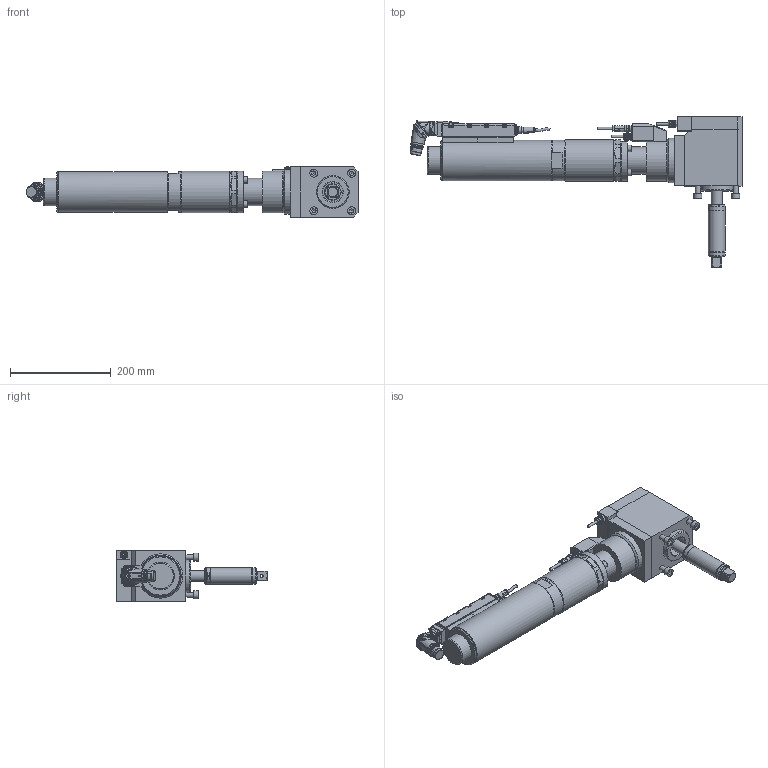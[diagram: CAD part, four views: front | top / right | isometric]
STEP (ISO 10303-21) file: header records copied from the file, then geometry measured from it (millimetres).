
FILE_DESCRIPTION (( 'STEP AP203' ), '1' );
FILE_NAME ('70082589_ESX329DRXWX300AWDX350-300.STEP', '2026-03-12T11:48:50', ( '' ), ( '' ), 'SwSTEP 2.0', 'SolidWorks 2020', '' );
FILE_SCHEMA (( 'CONFIG_CONTROL_DESIGN' ));
Length unit declared in the file: millimetre
Products named in the file (11): 70082293_2; 7002133_3; 70210514; 70082404; 70082589_ESX329DRXWX300AWDX350-300; 70057493_4; 70057493_2; 70057493_3; 70082308_ESX329_Standard_Winkel_2; 70082308; 70057493_Standard_winkel
Assembly tree (11 placements, depth 4):
  70082589_ESX329DRXWX300AWDX350-300
    70082308_ESX329_Standard_Winkel_2
      70082308
      70057493_Standard_winkel
        70057493_2
        70057493_3
        70057493_4
      70082293_2  x2
    70210514
    70082404
    7002133_3
Bounding box: 658.56 x 298 x 100 mm (x, y, z)
Volume: 4559845.2 mm3; surface area: 369294.6 mm2
Topology: 13 solids, 14 shells, 2782 faces, 7154 edges, 4607 vertices
Faces by surface type: plane 1271, cylinder 748, cone 417, bspline 269, torus 72, sphere 5
Full cylindrical faces by diameter (mm): 0.5 x14, 0.57 x14, 2 x3, 3 x4, 4.2 x1, 4.9 x5, 5 x7, 5.5 x13, 6 x2, 6.8 x8, 7 x2, 8 x23, 8.459 x2, 9 x2, 10 x4, 11.08 x3, 12 x1, 12.3 x3, 13 x4, 14 x6, 14.5 x2, 16 x4, 17.4 x1, 19.75 x1, 20 x2, 20.5 x1, 21.15 x1, 21.5 x1, 21.7 x1, 21.8 x1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
Entity records: 91954 total; most frequent: CARTESIAN_POINT 31535, ORIENTED_EDGE 12746, DIRECTION 11096, EDGE_CURVE 6373, VERTEX_POINT 4276, AXIS2_PLACEMENT_3D 4163, EDGE_LOOP 3195, FACE_OUTER_BOUND 2863
